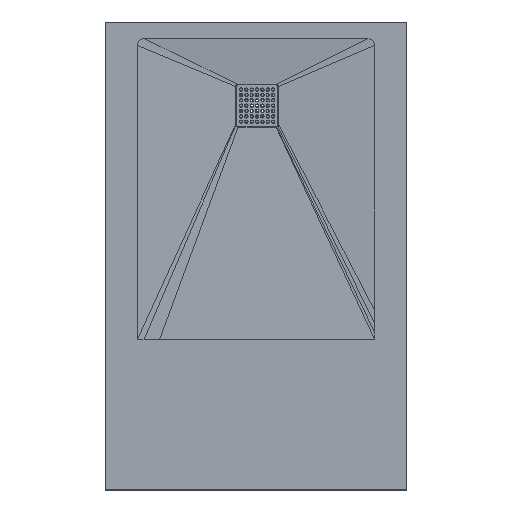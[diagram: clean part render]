
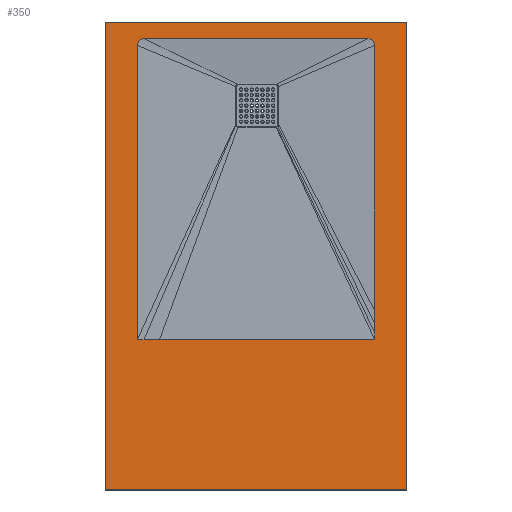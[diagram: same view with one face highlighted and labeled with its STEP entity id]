
A CAD part, top view. The second image highlights one B-rep face of the part: STEP entity #350.
In plain terms, the highlighted planar face has unit normal (0, 0, -1).
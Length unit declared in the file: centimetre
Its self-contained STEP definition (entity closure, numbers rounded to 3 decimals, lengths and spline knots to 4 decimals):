
#21=B_SPLINE_CURVE_WITH_KNOTS('',1,(#16452,#16453),.UNSPECIFIED.,.F.,.F.,
(2,2),(0.,160.),.UNSPECIFIED.);
#22=B_SPLINE_CURVE_WITH_KNOTS('',1,(#16454,#16455),.UNSPECIFIED.,.F.,.F.,
(2,2),(410.,500.),.UNSPECIFIED.);
#23=B_SPLINE_CURVE_WITH_KNOTS('',1,(#16456,#16457),.UNSPECIFIED.,.F.,.F.,
(2,2),(250.,410.),.UNSPECIFIED.);
#24=B_SPLINE_CURVE_WITH_KNOTS('',1,(#16458,#16459),.UNSPECIFIED.,.F.,.F.,
(2,2),(160.,250.),.UNSPECIFIED.);
#350=ADVANCED_FACE('',(#792,#472),#5762,.T.);
#472=FACE_BOUND('',#1234,.T.);
#792=FACE_OUTER_BOUND('',#1233,.T.);
#1233=EDGE_LOOP('',(#2938,#2939,#2940,#2941));
#1234=EDGE_LOOP('',(#2942,#2943,#2944,#2945,#2946,#2947,#2948,#2949,#2950,
#2951,#2952));
#2938=ORIENTED_EDGE('',*,*,#3894,.F.);
#2939=ORIENTED_EDGE('',*,*,#3895,.F.);
#2940=ORIENTED_EDGE('',*,*,#3896,.F.);
#2941=ORIENTED_EDGE('',*,*,#3893,.F.);
#2942=ORIENTED_EDGE('',*,*,#3943,.F.);
#2943=ORIENTED_EDGE('',*,*,#3906,.F.);
#2944=ORIENTED_EDGE('',*,*,#3947,.F.);
#2945=ORIENTED_EDGE('',*,*,#3901,.F.);
#2946=ORIENTED_EDGE('',*,*,#3908,.F.);
#2947=ORIENTED_EDGE('',*,*,#3907,.F.);
#2948=ORIENTED_EDGE('',*,*,#3902,.F.);
#2949=ORIENTED_EDGE('',*,*,#3905,.F.);
#2950=ORIENTED_EDGE('',*,*,#3904,.F.);
#2951=ORIENTED_EDGE('',*,*,#3903,.F.);
#2952=ORIENTED_EDGE('',*,*,#3900,.F.);
#3893=EDGE_CURVE('',#5377,#5380,#21,.T.);
#3894=EDGE_CURVE('',#5378,#5377,#22,.T.);
#3895=EDGE_CURVE('',#5379,#5378,#23,.T.);
#3896=EDGE_CURVE('',#5380,#5379,#24,.T.);
#3900=EDGE_CURVE('',#5381,#5420,#4792,.T.);
#3901=EDGE_CURVE('',#5382,#5408,#4793,.T.);
#3902=EDGE_CURVE('',#5383,#5413,#4794,.T.);
#3903=EDGE_CURVE('',#5420,#5418,#4795,.T.);
#3904=EDGE_CURVE('',#5418,#5416,#4796,.T.);
#3905=EDGE_CURVE('',#5416,#5383,#4797,.T.);
#3906=EDGE_CURVE('',#5406,#5404,#4798,.T.);
#3907=EDGE_CURVE('',#5413,#5411,#4799,.T.);
#3908=EDGE_CURVE('',#5411,#5382,#4800,.T.);
#3943=EDGE_CURVE('',#5404,#5381,#4835,.T.);
#3947=EDGE_CURVE('',#5408,#5406,#4839,.T.);
#4792=(
BOUNDED_CURVE()
B_SPLINE_CURVE(2,(#16466,#16467,#16468),.UNSPECIFIED.,.F.,.F.)
B_SPLINE_CURVE_WITH_KNOTS((3,3),(-1292.0156,-1159.9057),
 .UNSPECIFIED.)
CURVE()
GEOMETRIC_REPRESENTATION_ITEM()
RATIONAL_B_SPLINE_CURVE((1.,1.,1.))
REPRESENTATION_ITEM('')
);
#4793=(
BOUNDED_CURVE()
B_SPLINE_CURVE(2,(#16469,#16470,#16471,#16472,#16473),.UNSPECIFIED.,.F.,
 .F.)
B_SPLINE_CURVE_WITH_KNOTS((3,2,3),(-1067.1893,-1065.1893,
-921.856),.UNSPECIFIED.)
CURVE()
GEOMETRIC_REPRESENTATION_ITEM()
RATIONAL_B_SPLINE_CURVE((1.,1.,1.,1.,1.))
REPRESENTATION_ITEM('')
);
#4794=(
BOUNDED_CURVE()
B_SPLINE_CURVE(2,(#16474,#16475,#16476,#16477,#16478),.UNSPECIFIED.,.F.,
 .F.)
B_SPLINE_CURVE_WITH_KNOTS((3,2,3),(-1146.6823,-1144.6823,
-1074.4234),.UNSPECIFIED.)
CURVE()
GEOMETRIC_REPRESENTATION_ITEM()
RATIONAL_B_SPLINE_CURVE((1.,1.,1.,1.,1.))
REPRESENTATION_ITEM('')
);
#4795=(
BOUNDED_CURVE()
B_SPLINE_CURVE(2,(#16479,#16480,#16481),.UNSPECIFIED.,.F.,.F.)
B_SPLINE_CURVE_WITH_KNOTS((3,3),(-1159.9057,-1153.294),
 .UNSPECIFIED.)
CURVE()
GEOMETRIC_REPRESENTATION_ITEM()
RATIONAL_B_SPLINE_CURVE((1.,1.,1.))
REPRESENTATION_ITEM('')
);
#4796=(
BOUNDED_CURVE()
B_SPLINE_CURVE(2,(#16482,#16483,#16484),.UNSPECIFIED.,.F.,.F.)
B_SPLINE_CURVE_WITH_KNOTS((3,3),(-1153.294,-1148.6823),
 .UNSPECIFIED.)
CURVE()
GEOMETRIC_REPRESENTATION_ITEM()
RATIONAL_B_SPLINE_CURVE((1.,1.,1.))
REPRESENTATION_ITEM('')
);
#4797=(
BOUNDED_CURVE()
B_SPLINE_CURVE(2,(#16485,#16486,#16487),.UNSPECIFIED.,.F.,.F.)
B_SPLINE_CURVE_WITH_KNOTS((3,3),(-1148.6823,-1146.6823),
 .UNSPECIFIED.)
CURVE()
GEOMETRIC_REPRESENTATION_ITEM()
RATIONAL_B_SPLINE_CURVE((1.,1.,1.))
REPRESENTATION_ITEM('')
);
#4798=(
BOUNDED_CURVE()
B_SPLINE_CURVE(2,(#16488,#16489,#16490),.UNSPECIFIED.,.F.,.F.)
B_SPLINE_CURVE_WITH_KNOTS((3,3),(-918.7144,-843.2214),
 .UNSPECIFIED.)
CURVE()
GEOMETRIC_REPRESENTATION_ITEM()
RATIONAL_B_SPLINE_CURVE((1.,1.,1.))
REPRESENTATION_ITEM('')
);
#4799=(
BOUNDED_CURVE()
B_SPLINE_CURVE(2,(#16491,#16492,#16493),.UNSPECIFIED.,.F.,.F.)
B_SPLINE_CURVE_WITH_KNOTS((3,3),(-1074.4234,-1069.1893),
 .UNSPECIFIED.)
CURVE()
GEOMETRIC_REPRESENTATION_ITEM()
RATIONAL_B_SPLINE_CURVE((1.,1.,1.))
REPRESENTATION_ITEM('')
);
#4800=(
BOUNDED_CURVE()
B_SPLINE_CURVE(2,(#16494,#16495,#16496),.UNSPECIFIED.,.F.,.F.)
B_SPLINE_CURVE_WITH_KNOTS((3,3),(-1069.1893,-1067.1893),
 .UNSPECIFIED.)
CURVE()
GEOMETRIC_REPRESENTATION_ITEM()
RATIONAL_B_SPLINE_CURVE((1.,1.,1.))
REPRESENTATION_ITEM('')
);
#4835=(
BOUNDED_CURVE()
B_SPLINE_CURVE(3,(#17422,#17423,#17424,#17425,#17426,#17427,#17428),
 .UNSPECIFIED.,.F.,.F.)
B_SPLINE_CURVE_WITH_KNOTS((4,3,4),(-1.1423,-0.5711,
0.),.UNSPECIFIED.)
CURVE()
GEOMETRIC_REPRESENTATION_ITEM()
RATIONAL_B_SPLINE_CURVE((1.,0.902,0.854,0.854,
0.854,0.902,1.))
REPRESENTATION_ITEM('')
);
#4839=(
BOUNDED_CURVE()
B_SPLINE_CURVE(3,(#17443,#17444,#17445,#17446,#17447,#17448,#17449),
 .UNSPECIFIED.,.F.,.F.)
B_SPLINE_CURVE_WITH_KNOTS((4,3,4),(-13.7177,-13.147,
-12.5763),.UNSPECIFIED.)
CURVE()
GEOMETRIC_REPRESENTATION_ITEM()
RATIONAL_B_SPLINE_CURVE((1.,0.902,0.854,0.854,
0.854,0.902,1.))
REPRESENTATION_ITEM('')
);
#5377=VERTEX_POINT('',#14021);
#5378=VERTEX_POINT('',#14022);
#5379=VERTEX_POINT('',#14023);
#5380=VERTEX_POINT('',#14024);
#5381=VERTEX_POINT('',#14025);
#5382=VERTEX_POINT('',#14026);
#5383=VERTEX_POINT('',#14027);
#5404=VERTEX_POINT('',#14048);
#5406=VERTEX_POINT('',#14050);
#5408=VERTEX_POINT('',#14052);
#5411=VERTEX_POINT('',#14055);
#5413=VERTEX_POINT('',#14057);
#5416=VERTEX_POINT('',#14060);
#5418=VERTEX_POINT('',#14062);
#5420=VERTEX_POINT('',#14064);
#5762=PLANE('',#5966);
#5966=AXIS2_PLACEMENT_3D('',#11989,#6086,$);
#6086=DIRECTION('',(0.,0.,-1.));
#11989=CARTESIAN_POINT('',(3542.317,77.459,67.2031));
#14021=CARTESIAN_POINT('',(3542.317,77.459,67.2031));
#14022=CARTESIAN_POINT('',(3632.317,77.459,67.2031));
#14023=CARTESIAN_POINT('',(3632.317,-62.541,67.2031));
#14024=CARTESIAN_POINT('',(3542.317,-62.541,67.2031));
#14025=CARTESIAN_POINT('',(3622.817,70.459,67.2031));
#14026=CARTESIAN_POINT('',(3551.817,-17.541,67.2031));
#14027=CARTESIAN_POINT('',(3622.817,-17.541,67.2031));
#14048=CARTESIAN_POINT('',(3620.817,72.459,67.2031));
#14050=CARTESIAN_POINT('',(3553.817,72.459,67.2031));
#14052=CARTESIAN_POINT('',(3551.817,70.459,67.2031));
#14055=CARTESIAN_POINT('',(3553.817,-17.541,67.2031));
#14057=CARTESIAN_POINT('',(3558.4622,-17.541,67.2031));
#14060=CARTESIAN_POINT('',(3622.817,-15.541,67.2031));
#14062=CARTESIAN_POINT('',(3622.817,-12.774,67.2031));
#14064=CARTESIAN_POINT('',(3622.817,-8.8069,67.2031));
#16452=CARTESIAN_POINT('',(3542.317,77.459,67.2031));
#16453=CARTESIAN_POINT('',(3542.317,-62.541,67.2031));
#16454=CARTESIAN_POINT('',(3632.317,77.459,67.2031));
#16455=CARTESIAN_POINT('',(3542.317,77.459,67.2031));
#16456=CARTESIAN_POINT('',(3632.317,-62.541,67.2031));
#16457=CARTESIAN_POINT('',(3632.317,77.459,67.2031));
#16458=CARTESIAN_POINT('',(3542.317,-62.541,67.2031));
#16459=CARTESIAN_POINT('',(3632.317,-62.541,67.2031));
#16466=CARTESIAN_POINT('',(3622.817,70.459,67.2031));
#16467=CARTESIAN_POINT('',(3622.817,30.826,67.2031));
#16468=CARTESIAN_POINT('',(3622.817,-8.8069,67.2031));
#16469=CARTESIAN_POINT('',(3551.817,-17.541,67.2031));
#16470=CARTESIAN_POINT('',(3551.817,-16.541,67.2031));
#16471=CARTESIAN_POINT('',(3551.817,-15.541,67.2031));
#16472=CARTESIAN_POINT('',(3551.817,27.459,67.2031));
#16473=CARTESIAN_POINT('',(3551.817,70.459,67.2031));
#16474=CARTESIAN_POINT('',(3622.817,-17.541,67.2031));
#16475=CARTESIAN_POINT('',(3621.817,-17.541,67.2031));
#16476=CARTESIAN_POINT('',(3620.817,-17.541,67.2031));
#16477=CARTESIAN_POINT('',(3589.6396,-17.541,67.2031));
#16478=CARTESIAN_POINT('',(3558.4622,-17.541,67.2031));
#16479=CARTESIAN_POINT('',(3622.817,-8.8069,67.2031));
#16480=CARTESIAN_POINT('',(3622.817,-10.7905,67.2031));
#16481=CARTESIAN_POINT('',(3622.817,-12.774,67.2031));
#16482=CARTESIAN_POINT('',(3622.817,-12.774,67.2031));
#16483=CARTESIAN_POINT('',(3622.817,-14.1575,67.2031));
#16484=CARTESIAN_POINT('',(3622.817,-15.541,67.2031));
#16485=CARTESIAN_POINT('',(3622.817,-15.541,67.2031));
#16486=CARTESIAN_POINT('',(3622.817,-16.541,67.2031));
#16487=CARTESIAN_POINT('',(3622.817,-17.541,67.2031));
#16488=CARTESIAN_POINT('',(3553.817,72.459,67.2031));
#16489=CARTESIAN_POINT('',(3587.317,72.459,67.2031));
#16490=CARTESIAN_POINT('',(3620.817,72.459,67.2031));
#16491=CARTESIAN_POINT('',(3558.4622,-17.541,67.2031));
#16492=CARTESIAN_POINT('',(3556.1396,-17.541,67.2031));
#16493=CARTESIAN_POINT('',(3553.817,-17.541,67.2031));
#16494=CARTESIAN_POINT('',(3553.817,-17.541,67.2031));
#16495=CARTESIAN_POINT('',(3552.817,-17.541,67.2031));
#16496=CARTESIAN_POINT('',(3551.817,-17.541,67.2031));
#17422=CARTESIAN_POINT('',(3620.817,72.459,67.2031));
#17423=CARTESIAN_POINT('',(3621.3394,72.459,67.2031));
#17424=CARTESIAN_POINT('',(3621.8407,72.2637,67.2031));
#17425=CARTESIAN_POINT('',(3622.2312,71.8732,67.2031));
#17426=CARTESIAN_POINT('',(3622.6217,71.4827,67.2031));
#17427=CARTESIAN_POINT('',(3622.817,70.9814,67.2031));
#17428=CARTESIAN_POINT('',(3622.817,70.459,67.2031));
#17443=CARTESIAN_POINT('',(3551.817,70.459,67.2031));
#17444=CARTESIAN_POINT('',(3551.817,70.9814,67.2031));
#17445=CARTESIAN_POINT('',(3552.0123,71.4827,67.2031));
#17446=CARTESIAN_POINT('',(3552.4028,71.8732,67.2031));
#17447=CARTESIAN_POINT('',(3552.7933,72.2637,67.2031));
#17448=CARTESIAN_POINT('',(3553.2946,72.459,67.2031));
#17449=CARTESIAN_POINT('',(3553.817,72.459,67.2031));
